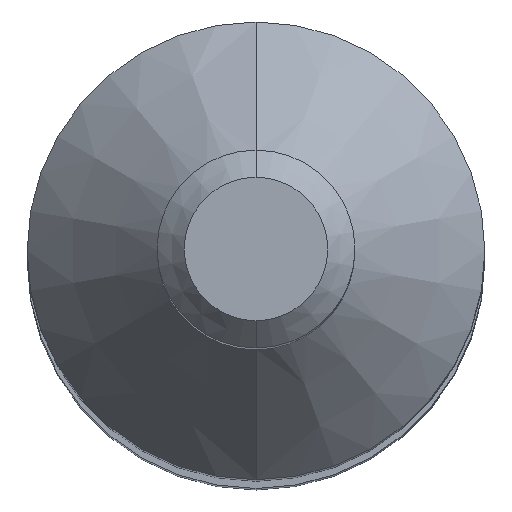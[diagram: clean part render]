
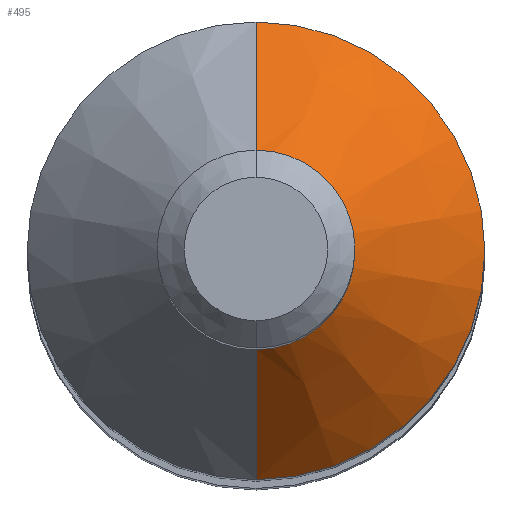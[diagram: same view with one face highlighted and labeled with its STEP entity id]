
A CAD part, top view. The second image highlights one B-rep face of the part: STEP entity #495.
In plain terms, the highlighted conical face has half-angle 39.946 degrees and reference radius 1.073 mm.
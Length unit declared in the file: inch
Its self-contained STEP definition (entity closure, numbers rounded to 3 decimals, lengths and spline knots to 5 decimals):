
#357=DIRECTION('',(0.,-0.642,0.767));
#358=VECTOR('',#357,0.05218);
#359=CARTESIAN_POINT('',(0.,0.059,0.758));
#360=LINE('',#359,#358);
#361=CARTESIAN_POINT('',(0.,0.,0.758));
#362=DIRECTION('',(0.,0.,-1.));
#363=DIRECTION('',(0.,1.,0.));
#364=AXIS2_PLACEMENT_3D('',#361,#362,#363);
#366=DIRECTION('',(0.,0.642,0.767));
#367=VECTOR('',#366,0.05218);
#368=CARTESIAN_POINT('',(0.,-0.059,0.758));
#369=LINE('',#368,#367);
#412=CARTESIAN_POINT('',(0.,0.,0.798));
#413=DIRECTION('',(0.,0.,-1.));
#414=DIRECTION('',(0.,1.,0.));
#415=AXIS2_PLACEMENT_3D('',#412,#413,#414);
#422=CARTESIAN_POINT('',(0.,0.059,0.758));
#424=VERTEX_POINT('',#422);
#425=CARTESIAN_POINT('',(0.,0.0255,0.798));
#426=VERTEX_POINT('',#425);
#428=CARTESIAN_POINT('',(0.,-0.059,0.758));
#430=VERTEX_POINT('',#428);
#431=CARTESIAN_POINT('',(0.,-0.0255,0.798));
#432=VERTEX_POINT('',#431);
#481=CARTESIAN_POINT('',(0.,0.,0.778));
#482=DIRECTION('',(0.,0.,-1.));
#483=DIRECTION('',(0.,-1.,0.));
#484=AXIS2_PLACEMENT_3D('',#481,#482,#483);
#485=CONICAL_SURFACE('',#484,0.04225,39.946);
#487=ORIENTED_EDGE('',*,*,#486,.F.);
#488=ORIENTED_EDGE('',*,*,#476,.T.);
#490=ORIENTED_EDGE('',*,*,#489,.T.);
#492=ORIENTED_EDGE('',*,*,#491,.F.);
#493=EDGE_LOOP('',(#487,#488,#490,#492));
#494=FACE_OUTER_BOUND('',#493,.F.);
#495=ADVANCED_FACE('',(#494),#485,.T.);
#365=CIRCLE('',#364,0.059);
#416=CIRCLE('',#415,0.0255);
#476=EDGE_CURVE('',#424,#430,#365,.T.);
#486=EDGE_CURVE('',#424,#426,#360,.T.);
#489=EDGE_CURVE('',#430,#432,#369,.T.);
#491=EDGE_CURVE('',#426,#432,#416,.T.);
